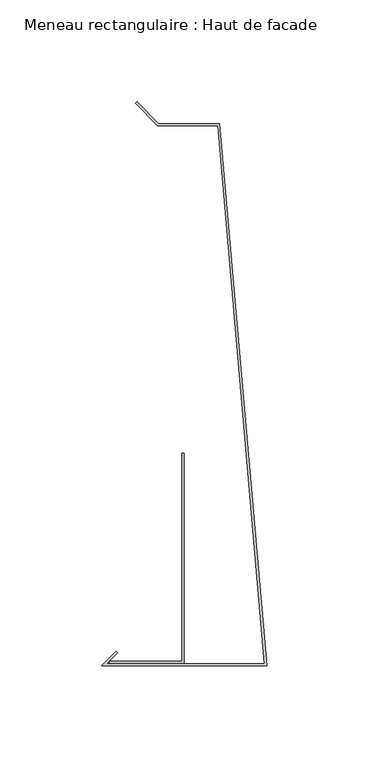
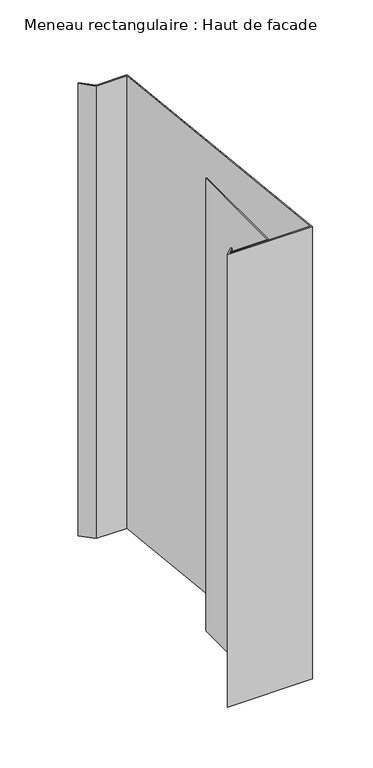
"""IFC4 building model written with IfcOpenShell, lengths in millimetres: member geometry, Meneau rectangulaire : Haut de facade."""

from ifc_helpers import new_model, si_unit, frame, origin, place, context, project, spatial, polyline, outline, extrude, source, transform, mapped, element, save


def meneau_rectangulaire_haut_de_facade_04a1f5c5(model_context):
    return source(origin(), model_context, "Body", "SweptSolid", [
        extrude(outline(polyline([(-24.0647895, 160.703755), (-53.5626719, 160.703755), (-64.4621669, 171.6032499), (-63.7550601, 172.3103567), (-53.1484584, 161.703755), (-23.1484584, 161.703755), (0.0, -104.2), (-81.0, -104.2), (-73.9289322, -97.1289322), (-73.2218254, -97.836039), (-78.5857864, -103.2), (-1.0913085, -103.2), (-24.0647895, 160.703755)])), frame((0.0, 0.0, -457.0), z_axis=(0.0, 0.0, 1.0), x_axis=(1.0, 0.0, 0.0)), (0.0, 0.0, 1.0), 457.0),
        extrude(outline(polyline([(-40.5477541, -102.9846816), (-77.0752814, -102.9846816), (-77.0752814, -101.9846816), (-41.5477541, -101.9846816), (-41.5477541, -0.0384227), (-40.5477541, -0.0384227), (-40.5477541, -102.9846816)])), frame((0.0, 0.0, -457.0), z_axis=(0.0, 0.0, 1.0), x_axis=(1.0, 0.0, 0.0)), (0.0, 0.0, 1.0), 457.0),
    ])


if __name__ == "__main__":
    model = new_model("IFC4")
    model_context = context("Model", 3, world=origin())
    ifc_project = project(units=[si_unit("LENGTHUNIT", "METRE", prefix="MILLI")], contexts=[model_context])
    site = spatial("IfcSite", under=ifc_project)
    building = spatial("IfcBuilding", under=site)
    placement = place(None, origin())
    meneau_rectangulaire_haut_de_facade_shape = meneau_rectangulaire_haut_de_facade_04a1f5c5(model_context)
    element("IfcMember", 1, ObjectType="Meneau rectangulaire : Haut de facade", at=placement, inside=building, context=model_context, shape_type="MappedRepresentation", body=[
        mapped(meneau_rectangulaire_haut_de_facade_shape, transform((0.0, 0.0, 0.0), x_axis=(1.0, 0.0, 0.0), y_axis=(0.0, 1.0, 0.0), z_axis=(0.0, 0.0, 1.0))),
    ])
    save(model, "model.ifc")
